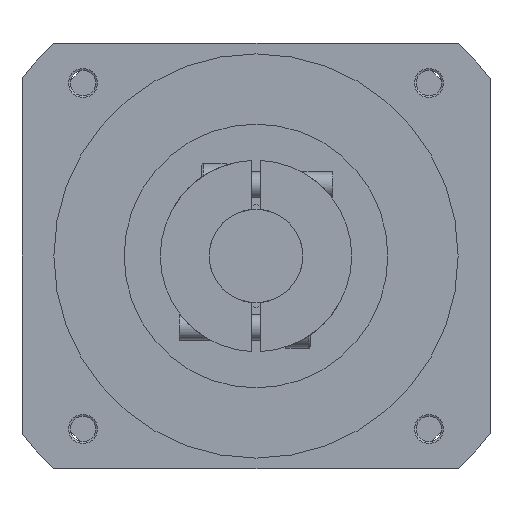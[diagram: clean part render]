
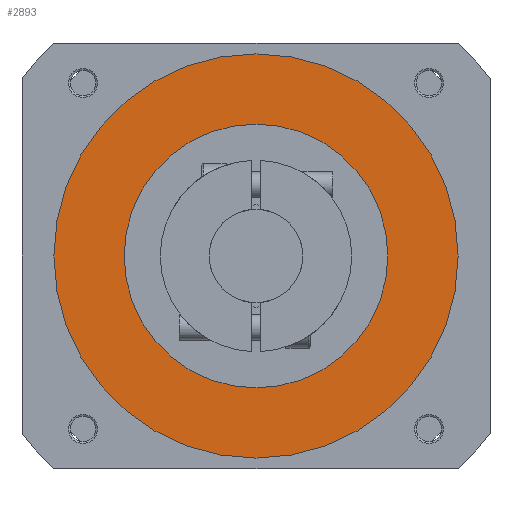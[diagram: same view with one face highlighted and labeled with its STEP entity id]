
A CAD part, front view. The second image highlights one B-rep face of the part: STEP entity #2893.
In plain terms, the highlighted planar face has unit normal (0, -1, 0).
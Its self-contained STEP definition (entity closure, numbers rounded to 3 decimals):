
#17 = CIRCLE ( 'NONE', #4701, 31. ) ;
#51 = PLANE ( 'NONE',  #5648 ) ;
#116 = ORIENTED_EDGE ( 'NONE', *, *, #5216, .F. ) ;
#139 = CARTESIAN_POINT ( 'NONE',  ( 0., -161.5, 0. ) ) ;
#486 = FACE_OUTER_BOUND ( 'NONE', #2431, .T. ) ;
#505 = CARTESIAN_POINT ( 'NONE',  ( 0., -161.5, 0. ) ) ;
#509 = CARTESIAN_POINT ( 'NONE',  ( 0., -161.5, 0. ) ) ;
#600 = CARTESIAN_POINT ( 'NONE',  ( 0., -161.5, 47.5 ) ) ;
#605 = DIRECTION ( 'NONE',  ( 0., 0., -1. ) ) ;
#660 = ORIENTED_EDGE ( 'NONE', *, *, #5605, .T. ) ;
#840 = CARTESIAN_POINT ( 'NONE',  ( 0., -161.5, 31. ) ) ;
#992 = DIRECTION ( 'NONE',  ( 0., 0., -1. ) ) ;
#994 = DIRECTION ( 'NONE',  ( 0., 0., -1. ) ) ;
#1008 = DIRECTION ( 'NONE',  ( 0., -1., 0. ) ) ;
#1198 = CIRCLE ( 'NONE', #3362, 47.5 ) ;
#1235 = CARTESIAN_POINT ( 'NONE',  ( 0., -161.5, -31. ) ) ;
#1764 = VERTEX_POINT ( 'NONE', #840 ) ;
#1828 = DIRECTION ( 'NONE',  ( 0., -1., 0. ) ) ;
#1917 = EDGE_LOOP ( 'NONE', ( #116, #5215 ) ) ;
#2431 = EDGE_LOOP ( 'NONE', ( #5582, #660 ) ) ;
#2893 = ADVANCED_FACE ( 'NONE', ( #3501, #486 ), #51, .T. ) ;
#2957 = CIRCLE ( 'NONE', #4532, 31. ) ;
#3362 = AXIS2_PLACEMENT_3D ( 'NONE', #4643, #1828, #5106 ) ;
#3431 = DIRECTION ( 'NONE',  ( 0., -1., 0. ) ) ;
#3501 = FACE_BOUND ( 'NONE', #1917, .T. ) ;
#3599 = EDGE_CURVE ( 'NONE', #5839, #4692, #3777, .T. ) ;
#3735 = AXIS2_PLACEMENT_3D ( 'NONE', #139, #3431, #605 ) ;
#3746 = VERTEX_POINT ( 'NONE', #1235 ) ;
#3777 = CIRCLE ( 'NONE', #3735, 47.5 ) ;
#3786 = DIRECTION ( 'NONE',  ( 0., -1., 0. ) ) ;
#3790 = DIRECTION ( 'NONE',  ( 0., -1., 0. ) ) ;
#3804 = CARTESIAN_POINT ( 'NONE',  ( 0., -161.5, 0. ) ) ;
#4279 = DIRECTION ( 'NONE',  ( 0., 0., -1. ) ) ;
#4532 = AXIS2_PLACEMENT_3D ( 'NONE', #509, #3790, #994 ) ;
#4643 = CARTESIAN_POINT ( 'NONE',  ( 0., -161.5, 0. ) ) ;
#4692 = VERTEX_POINT ( 'NONE', #600 ) ;
#4701 = AXIS2_PLACEMENT_3D ( 'NONE', #505, #3786, #992 ) ;
#5106 = DIRECTION ( 'NONE',  ( 0., 0., -1. ) ) ;
#5149 = CARTESIAN_POINT ( 'NONE',  ( 0., -161.5, -47.5 ) ) ;
#5215 = ORIENTED_EDGE ( 'NONE', *, *, #5879, .F. ) ;
#5216 = EDGE_CURVE ( 'NONE', #1764, #3746, #2957, .T. ) ;
#5582 = ORIENTED_EDGE ( 'NONE', *, *, #3599, .T. ) ;
#5605 = EDGE_CURVE ( 'NONE', #4692, #5839, #1198, .T. ) ;
#5648 = AXIS2_PLACEMENT_3D ( 'NONE', #3804, #1008, #4279 ) ;
#5839 = VERTEX_POINT ( 'NONE', #5149 ) ;
#5879 = EDGE_CURVE ( 'NONE', #3746, #1764, #17, .T. ) ;
